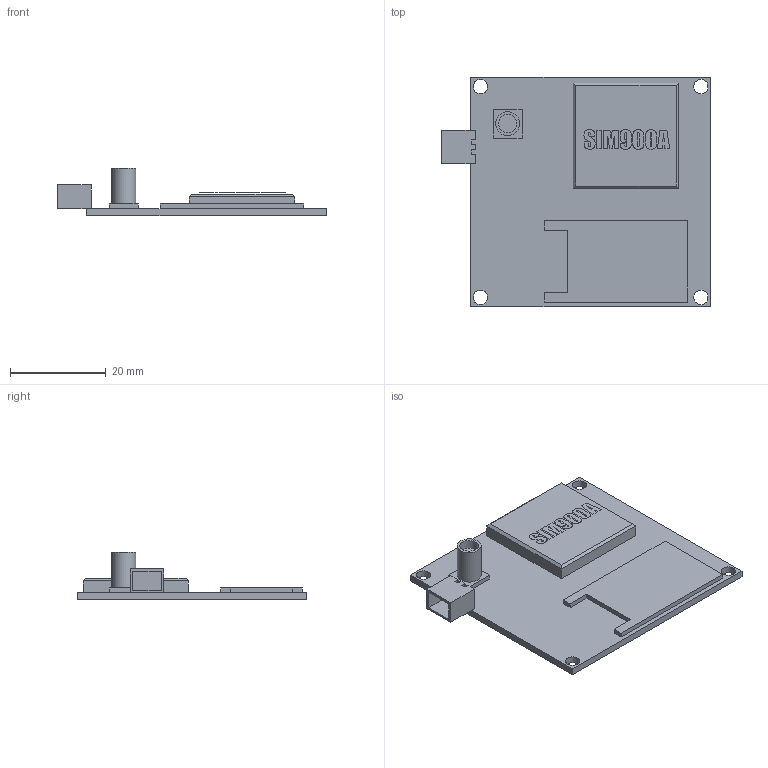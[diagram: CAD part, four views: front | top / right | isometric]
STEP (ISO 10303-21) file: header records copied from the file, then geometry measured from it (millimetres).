
FILE_DESCRIPTION(('FreeCAD Model'),'2;1');
FILE_NAME('Open CASCADE Shape Model','2023-04-10T16:28:50',('Author'),( ''),'Open CASCADE STEP processor 7.5','FreeCAD','Unknown');
FILE_SCHEMA(('AUTOMOTIVE_DESIGN { 1 0 10303 214 1 1 1 1 }'));
Length unit declared in the file: millimetre
Products named in the file (7): GSM sim900a; plata002; sim900a; sim; Body040; Body041; ShapeString001
Assembly tree (6 placements, depth 2):
  GSM sim900a
    plata002
    sim900a
    sim
    Body040
    Body041
    ShapeString001
Bounding box: 56.1 x 48 x 10 mm (x, y, z)
Volume: 5721.2 mm3; surface area: 7936.8 mm2
Topology: 5 solids, 12 shells, 66 faces, 292 edges, 246 vertices
Faces by surface type: plane 60, cylinder 6
Full cylindrical faces by diameter (mm): 3 x4, 3.854 x1, 5 x1
Entity records: 6090 total; most frequent: CARTESIAN_POINT 1539, DIRECTION 643, LINE 470, VECTOR 470, ORIENTED_EDGE 426, PCURVE 426, DEFINITIONAL_REPRESENTATION 426, EDGE_CURVE 292
